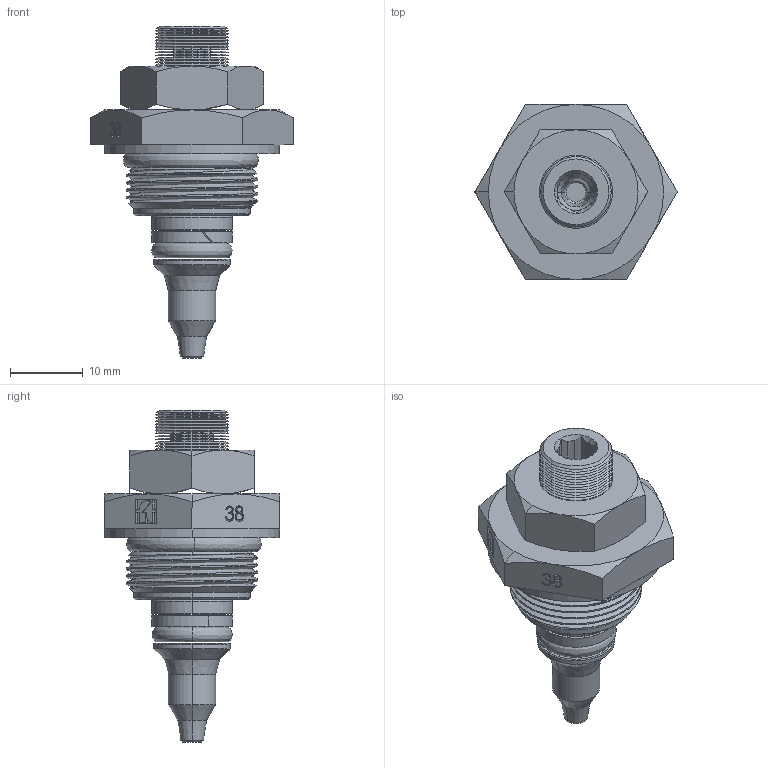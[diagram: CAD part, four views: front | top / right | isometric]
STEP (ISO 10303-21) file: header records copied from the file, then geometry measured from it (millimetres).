
FILE_DESCRIPTION (( 'STEP AP214' ), '1' );
FILE_NAME ('243-2-38.STEP', '2015-05-15T13:51:28', ( '' ), ( '' ), 'SwSTEP 2.0', 'SolidWorks 2014', '' );
FILE_SCHEMA (( 'AUTOMOTIVE_DESIGN' ));
Length unit declared in the file: millimetre
Products named in the file (1): 243-2-38
Bounding box: 27.71 x 24 x 45.5 mm (x, y, z)
Surface area: 3954 mm2 (no closed solid volume)
Topology: 0 solids, 15 shells, 286 faces, 781 edges, 504 vertices
Faces by surface type: plane 104, cone 78, bspline 66, cylinder 32, torus 6
Entity records: 17986 total; most frequent: CARTESIAN_POINT 8136, ORIENTED_EDGE 1458, DIRECTION 1191, EDGE_CURVE 781, VERTEX_POINT 504, AXIS2_PLACEMENT_3D 406, VECTOR 379, LINE 379
